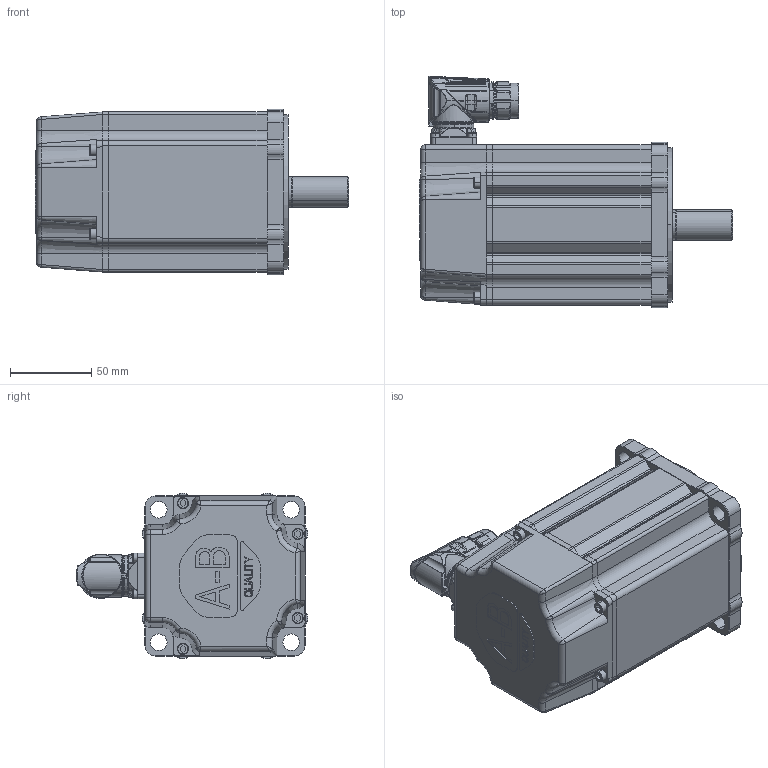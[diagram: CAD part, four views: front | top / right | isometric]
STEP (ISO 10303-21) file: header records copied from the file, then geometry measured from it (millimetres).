
FILE_DESCRIPTION (( 'STEP AP214' ), '1' );
FILE_NAME ('Rockwell Automation-$PARTNUMBER.STEP', '2014-02-25T11:06:29', ( 'Windows User' ), ( '' ), 'SwSTEP 2.0', 'SolidWorks 2014', '' );
FILE_SCHEMA (( 'AUTOMOTIVE_DESIGN' ));
Length unit declared in the file: inch
Products named in the file (9): Rockwell Automation-$PARTNUMBER_Rockwell Automation-VPL-x1152x-xKx2xx_91290A115_ANY; Rockwell Automation-$PARTNUMBER_Rockwell Automation-VPL-x1152x-xKx2xx_M23_Connector; Rockwell Automation-$PARTNUMBER_Rockwell Automation-VPL-x1152x-xKx2xx_10000014326-M23_ASM; Rockwell Automation-$PARTNUMBER_Rockwell Automation-VPL-x1152x-xKx2xx_10000014326-1; Rockwell Automation-$PARTNUMBER_Rockwell Automation-VPL-x1152x-xKx2xx_10000014325-1; Rockwell Automation-$PARTNUMBER_Rockwell Automation-VPL-x1152x-xKx2xx_10000540833; Rockwell Automation-$PARTNUMBER_Rockwell Automation-VPL-x1152x-xKx2xx_VPL-115-Shaft_1152-SHAFT-KEYLESS; Rockwell Automation-$PARTNUMBER_Rockwell Automation-VPL-x1152x-xKx2xx_VPL-115-Body_1152; Rockwell Automation-$PARTNUMBER
Assembly tree (11 placements, depth 4):
  Rockwell Automation-$PARTNUMBER
    Rockwell Automation-$PARTNUMBER_Rockwell Automation-VPL-x1152x-xKx2xx_VPL-115-Body_1152
    Rockwell Automation-$PARTNUMBER_Rockwell Automation-VPL-x1152x-xKx2xx_VPL-115-Shaft_1152-SHAFT-KEYLESS
    Rockwell Automation-$PARTNUMBER_Rockwell Automation-VPL-x1152x-xKx2xx_M23_Connector
      Rockwell Automation-$PARTNUMBER_Rockwell Automation-VPL-x1152x-xKx2xx_10000540833
      Rockwell Automation-$PARTNUMBER_Rockwell Automation-VPL-x1152x-xKx2xx_10000014325-1
      Rockwell Automation-$PARTNUMBER_Rockwell Automation-VPL-x1152x-xKx2xx_10000014326-M23_ASM
        Rockwell Automation-$PARTNUMBER_Rockwell Automation-VPL-x1152x-xKx2xx_10000014326-1
    Rockwell Automation-$PARTNUMBER_Rockwell Automation-VPL-x1152x-xKx2xx_91290A115_ANY  x4
Bounding box: 192.41 x 142 x 101.55 mm (x, y, z)
Volume: 592375.7 mm3; surface area: 189826.5 mm2
Topology: 10 solids, 16 shells, 2621 faces, 7277 edges, 4708 vertices
Faces by surface type: cylinder 826, plane 797, bspline 724, cone 254, torus 18, sphere 2
Entity records: 155734 total; most frequent: CARTESIAN_POINT 85510, ORIENTED_EDGE 14099, DIRECTION 8474, EDGE_CURVE 7056, VERTEX_POINT 4606, B_SPLINE_CURVE_WITH_KNOTS 3366, AXIS2_PLACEMENT_3D 3079, EDGE_LOOP 2682
